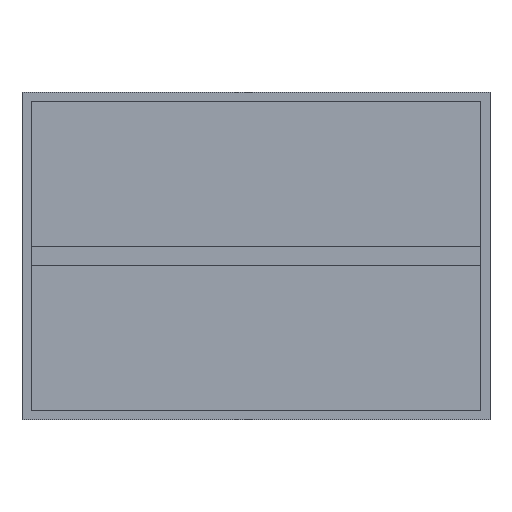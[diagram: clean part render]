
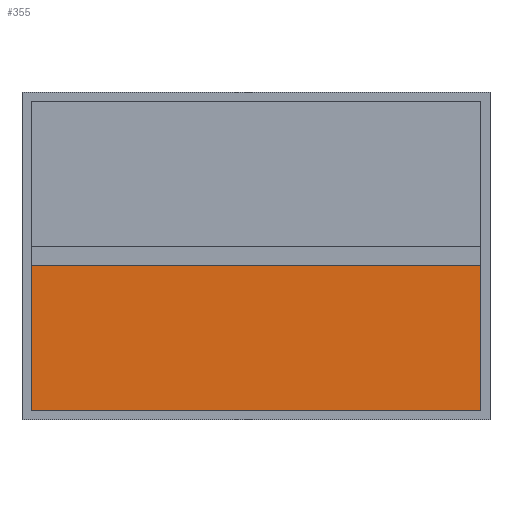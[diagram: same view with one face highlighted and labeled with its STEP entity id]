
A CAD part, top view. The second image highlights one B-rep face of the part: STEP entity #355.
In plain terms, the highlighted planar face has unit normal (0, 0, 1).
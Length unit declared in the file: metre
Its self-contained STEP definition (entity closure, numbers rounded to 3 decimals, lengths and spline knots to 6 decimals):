
#21=FACE_OUTER_BOUND('',#41,.T.);
#41=EDGE_LOOP('',(#255,#256,#257,#258));
#66=LINE('',#516,#114);
#69=LINE('',#522,#117);
#74=LINE('',#532,#122);
#75=LINE('',#533,#123);
#114=VECTOR('',#421,0.01);
#117=VECTOR('',#428,0.01);
#122=VECTOR('',#435,0.01);
#123=VECTOR('',#436,0.01);
#160=VERTEX_POINT('',#510);
#162=VERTEX_POINT('',#514);
#163=VERTEX_POINT('',#521);
#167=VERTEX_POINT('',#531);
#194=EDGE_CURVE('',#160,#162,#66,.T.);
#197=EDGE_CURVE('',#163,#160,#69,.T.);
#202=EDGE_CURVE('',#162,#167,#74,.T.);
#203=EDGE_CURVE('',#167,#163,#75,.T.);
#255=ORIENTED_EDGE('',*,*,#194,.T.);
#256=ORIENTED_EDGE('',*,*,#202,.T.);
#257=ORIENTED_EDGE('',*,*,#203,.T.);
#258=ORIENTED_EDGE('',*,*,#197,.T.);
#335=PLANE('',#392);
#355=ADVANCED_FACE('',(#21),#335,.T.);
#392=AXIS2_PLACEMENT_3D('',#530,#433,#434);
#421=DIRECTION('',(-1.,0.,0.));
#428=DIRECTION('',(0.,1.,0.));
#433=DIRECTION('center_axis',(0.,0.,1.));
#434=DIRECTION('ref_axis',(1.,0.,0.));
#435=DIRECTION('',(0.,-1.,0.));
#436=DIRECTION('',(1.,0.,0.));
#510=CARTESIAN_POINT('',(0.48,-0.02,0.06));
#514=CARTESIAN_POINT('',(-0.48,-0.02,0.06));
#516=CARTESIAN_POINT('',(-0.245,-0.02,0.06));
#521=CARTESIAN_POINT('',(0.48,-0.33,0.06));
#522=CARTESIAN_POINT('',(0.48,-0.33,0.06));
#530=CARTESIAN_POINT('Origin',(0.,0.,0.06));
#531=CARTESIAN_POINT('',(-0.48,-0.33,0.06));
#532=CARTESIAN_POINT('',(-0.48,0.33,0.06));
#533=CARTESIAN_POINT('',(-0.48,-0.33,0.06));
